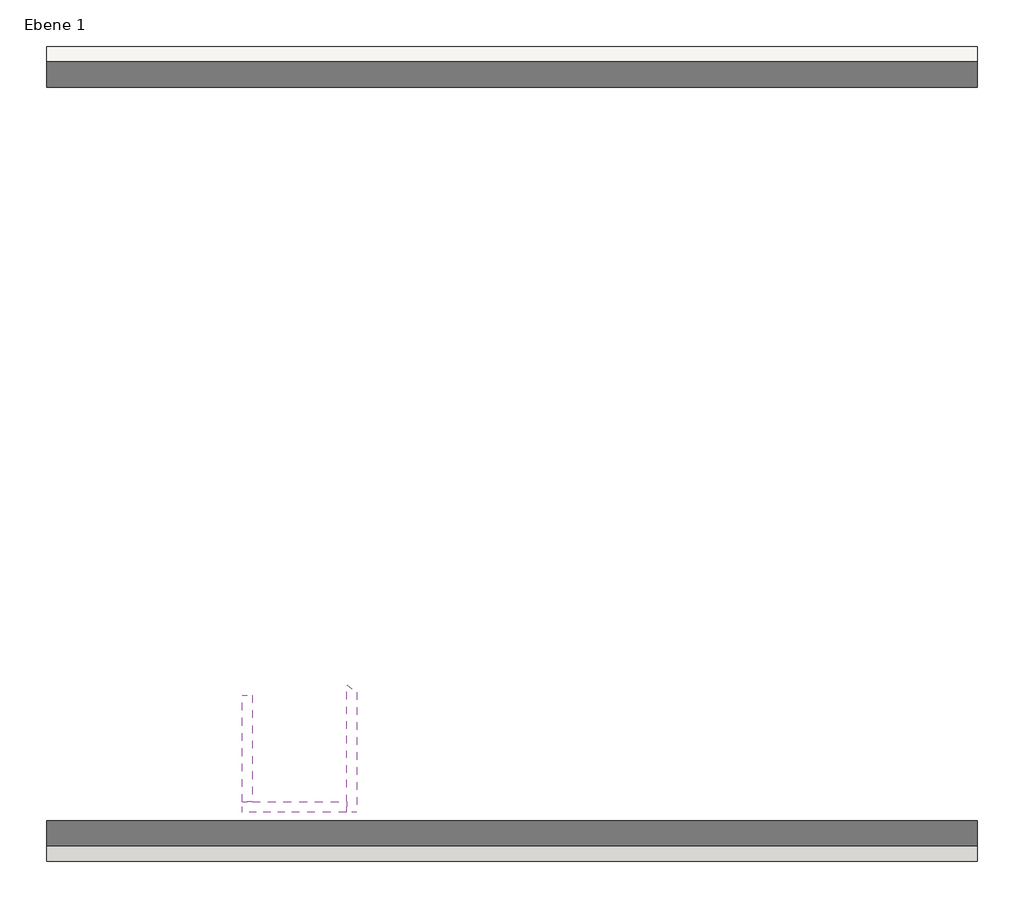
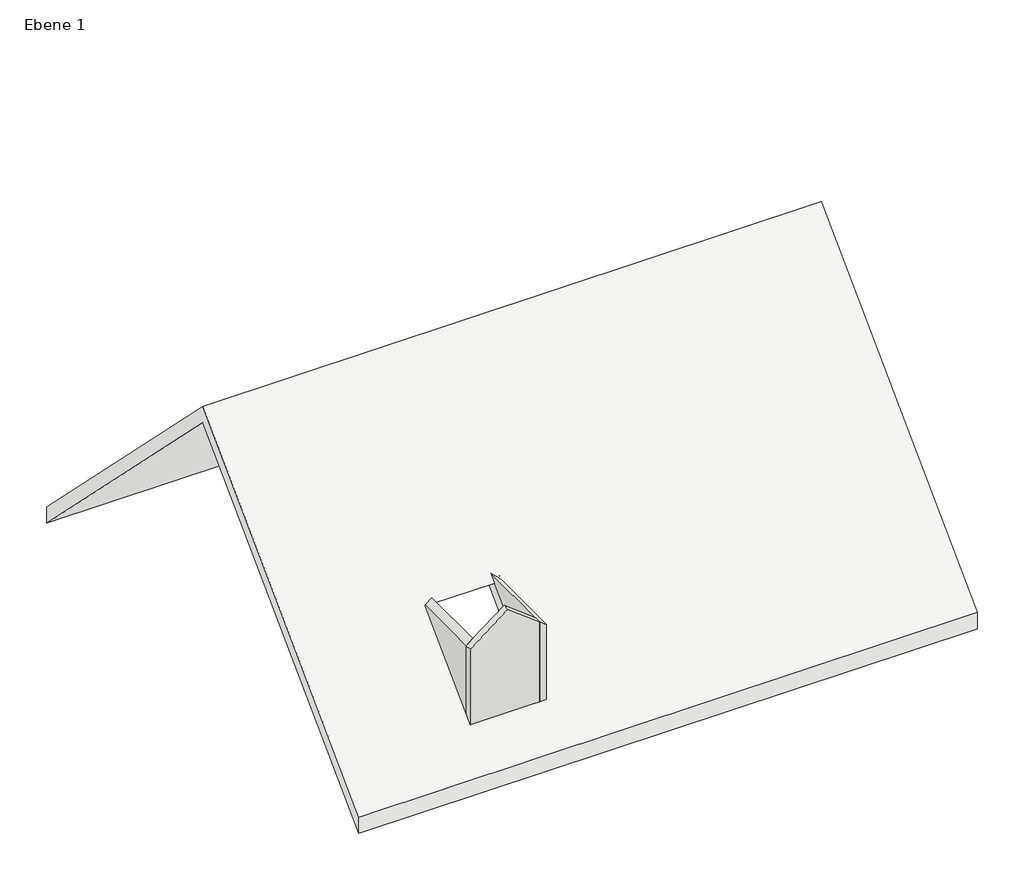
# One storey: 3 walls, 1 roof.
"""IFC4 building model written with IfcOpenShell, lengths in millimetres."""

from ifc_helpers import new_model, si_unit, origin, place, context, project, spatial, faceted_brep, element, save

model = new_model("IFC4")

# Units and contexts
model_context = context("Model", 3, world=origin())
ifc_project = project(units=[si_unit("LENGTHUNIT", "METRE", prefix="MILLI")], contexts=[model_context])

# Site, building, storey
site = spatial("IfcSite", under=ifc_project)
building = spatial("IfcBuilding", under=site)
storey = spatial("IfcBuildingStorey", under=building, Name="Ebene 1", Elevation=2750.0)

# Roof
placement = place(None, origin())
element("IfcRoof", 1, ObjectType="Titanzink - Eindeckung", at=placement, inside=storey, context=model_context, shape_type="Brep", body=[
    faceted_brep([(-3499.6774555, 1385.4034711, 7575.0), (-3499.6774555, 5410.4034711, 3550.0), (5700.3225445, 5410.4034711, 3550.0), (5700.3225445, 1385.4034711, 7575.0), (5700.3225445, -2639.5965289, 3550.0), (-3499.6774555, -2639.5965289, 3550.0), (-1466.9991325, -739.5965289, 5450.0), (-1466.9991325, -2054.5965289, 4135.0), (-532.1774555, -2054.5965289, 4135.0), (-532.1774555, -739.5965289, 5450.0), (-3499.6774555, 5410.4034711, 3804.5584412), (-3499.6774555, 1385.4034711, 7829.5584412), (5700.3225445, 1385.4034711, 7829.5584412), (5700.3225445, 5410.4034711, 3804.5584412), (-3499.6774555, -2639.5965289, 3804.5584412), (5700.3225445, -2639.5965289, 3804.5584412), (-1466.9991325, -2054.5965289, 4389.5584412), (-1466.9991325, -994.1549701, 5450.0), (-532.1774555, -994.1549701, 5450.0), (-532.1774555, -2054.5965289, 4389.5584412)], [[[0, 1, 2, 3]], [[0, 3, 4, 5], [6, 7, 8, 9]], [[10, 11, 12, 13]], [[12, 11, 14, 15], [16, 17, 18, 19]], [[15, 14, 5, 4]], [[10, 13, 2, 1]], [[1, 0, 5, 14, 11, 10]], [[3, 2, 13, 12, 15, 4]], [[16, 7, 6, 17]], [[18, 9, 8, 19]], [[7, 16, 19, 8]], [[17, 6, 9, 18]]]),
])

# Walls
element("IfcWall", 2, ObjectType="Bestand 10", at=placement, inside=storey, context=model_context, shape_type="Brep", body=[
    faceted_brep([(-532.1774555, -2154.5965289, 5548.1836729), (-532.1774555, -2054.5965289, 5548.1836729), (-532.1774555, -895.9712972, 5548.1836729), (-532.1774555, -2054.5965289, 4389.5584412), (-532.1774555, -2154.5965289, 4289.5584412), (-432.1774555, -972.7886368, 5471.3663333), (-432.1774555, -2154.5965289, 5471.3663333), (-432.1774555, -2154.5965289, 4289.5584412)], [[[0, 1, 2, 3, 4]], [[5, 6, 7]], [[2, 1, 0, 6, 5]], [[4, 3, 2, 5, 7]], [[6, 0, 4, 7]]]),
    faceted_brep([(-432.1774555, -947.5688797, 5500.0), (-432.1774555, -947.5688797, 5496.5860904), (-432.1774555, -944.1549701, 5500.0), (-436.621647, -944.1549701, 5500.0)], [[[0, 1, 2]], [[3, 0, 2]], [[2, 1, 3]], [[0, 3, 1]]]),
])
element("IfcWall", 3, ObjectType="Bestand 10", at=placement, inside=storey, context=model_context, shape_type="Brep", body=[
    faceted_brep([(-532.1774555, -2054.5965289, 4389.5584412), (-1466.9991325, -2054.5965289, 4389.5584412), (-1566.9991325, -2054.5965289, 4389.5584412), (-1566.9991325, -2054.5965289, 5471.2057261), (-1466.9991325, -2054.5965289, 5549.3342887), (-1004.2863301, -2054.5965289, 5910.8451505), (-532.1774555, -2054.5965289, 5548.1836729), (-532.1774555, -2154.5965289, 4289.5584412), (-532.1774555, -2154.5965289, 5548.1836729), (-1004.2863301, -2154.5965289, 5910.8451505), (-1566.9991325, -2154.5965289, 5471.2057261), (-1566.9991325, -2154.5965289, 4289.5584412)], [[[0, 1, 2, 3, 4, 5, 6]], [[7, 8, 9, 10, 11]], [[3, 2, 11, 10]], [[6, 5, 9, 8]], [[5, 4, 3, 10, 9]], [[2, 1, 0, 7, 11]], [[0, 6, 8, 7]]]),
])
element("IfcWall", 4, ObjectType="Bestand 10", at=placement, inside=storey, context=model_context, shape_type="Brep", body=[
    faceted_brep([(-1466.9991325, -2054.5965289, 4389.5584412), (-1466.9991325, -999.1549701, 5445.0), (-1466.9991325, -999.1549701, 5549.3342887), (-1466.9991325, -2054.5965289, 5549.3342887), (-1566.9991325, -2054.5965289, 4389.5584412), (-1566.9991325, -2054.5965289, 5471.2057261), (-1566.9991325, -999.1549701, 5471.2057261), (-1566.9991325, -999.1549701, 5445.0)], [[[0, 1, 2, 3]], [[4, 5, 6, 7]], [[2, 1, 7, 6]], [[0, 3, 5, 4]], [[3, 2, 6, 5]], [[1, 0, 4, 7]]]),
])

save(model, "model.ifc")
